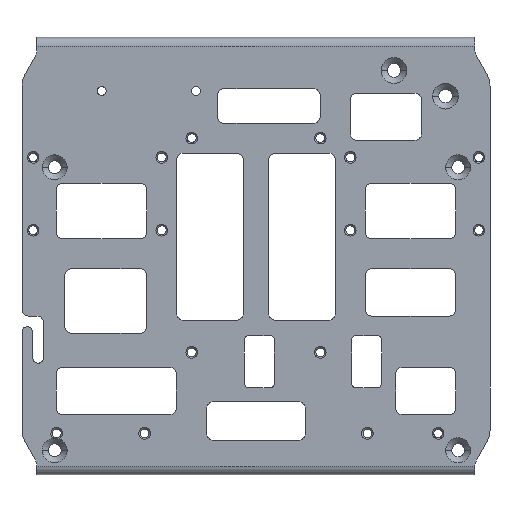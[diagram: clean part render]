
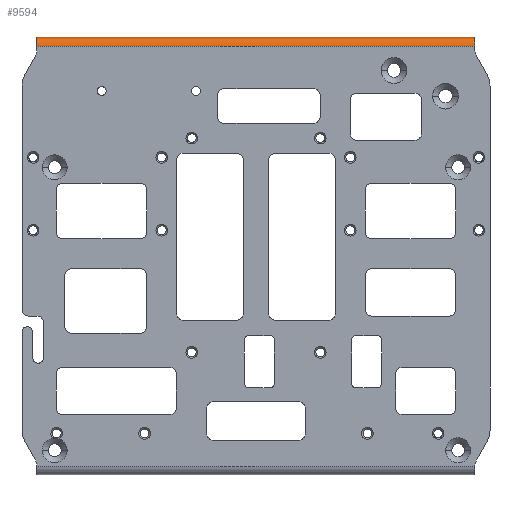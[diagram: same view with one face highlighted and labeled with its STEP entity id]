
A CAD part, front view. The second image highlights one B-rep face of the part: STEP entity #9594.
In plain terms, the highlighted cylindrical face has radius 2 mm (diameter 4 mm), a partial arc.
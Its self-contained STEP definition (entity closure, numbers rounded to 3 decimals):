
#483=CARTESIAN_POINT('',(-51.1,2.,49.5));
#484=DIRECTION('',(1.,0.,0.));
#485=DIRECTION('',(0.,0.,1.));
#486=AXIS2_PLACEMENT_3D('',#483,#484,#485);
#506=DIRECTION('',(1.,0.,0.));
#507=VECTOR('',#506,102.2);
#508=CARTESIAN_POINT('',(-51.1,2.,51.5));
#509=LINE('',#508,#507);
#513=DIRECTION('',(-1.,0.,0.));
#514=VECTOR('',#513,102.2);
#515=CARTESIAN_POINT('',(51.1,0.,49.5));
#516=LINE('',#515,#514);
#520=CARTESIAN_POINT('',(51.1,2.,49.5));
#521=DIRECTION('',(-1.,0.,0.));
#522=DIRECTION('',(0.,-1.,0.));
#523=AXIS2_PLACEMENT_3D('',#520,#521,#522);
#8030=CARTESIAN_POINT('',(51.1,2.,51.5));
#8031=VERTEX_POINT('',#8030);
#8032=CARTESIAN_POINT('',(-51.1,2.,51.5));
#8033=VERTEX_POINT('',#8032);
#8128=CARTESIAN_POINT('',(-51.1,0.,49.5));
#8129=VERTEX_POINT('',#8128);
#8132=CARTESIAN_POINT('',(51.1,0.,49.5));
#8133=VERTEX_POINT('',#8132);
#9581=CARTESIAN_POINT('',(-54.6,2.,49.5));
#9582=DIRECTION('',(1.,0.,0.));
#9583=DIRECTION('',(0.,0.,-1.));
#9584=AXIS2_PLACEMENT_3D('',#9581,#9582,#9583);
#9585=CYLINDRICAL_SURFACE('',#9584,2.);
#9586=ORIENTED_EDGE('',*,*,#9430,.T.);
#9588=ORIENTED_EDGE('',*,*,#9587,.F.);
#9590=ORIENTED_EDGE('',*,*,#9589,.T.);
#9591=ORIENTED_EDGE('',*,*,#9571,.F.);
#9592=EDGE_LOOP('',(#9586,#9588,#9590,#9591));
#9593=FACE_OUTER_BOUND('',#9592,.F.);
#487=CIRCLE('',#486,2.);
#524=CIRCLE('',#523,2.);
#9430=EDGE_CURVE('',#8033,#8031,#509,.T.);
#9571=EDGE_CURVE('',#8033,#8129,#487,.T.);
#9587=EDGE_CURVE('',#8133,#8031,#524,.T.);
#9589=EDGE_CURVE('',#8133,#8129,#516,.T.);
#9594=ADVANCED_FACE('',(#9593),#9585,.T.);
